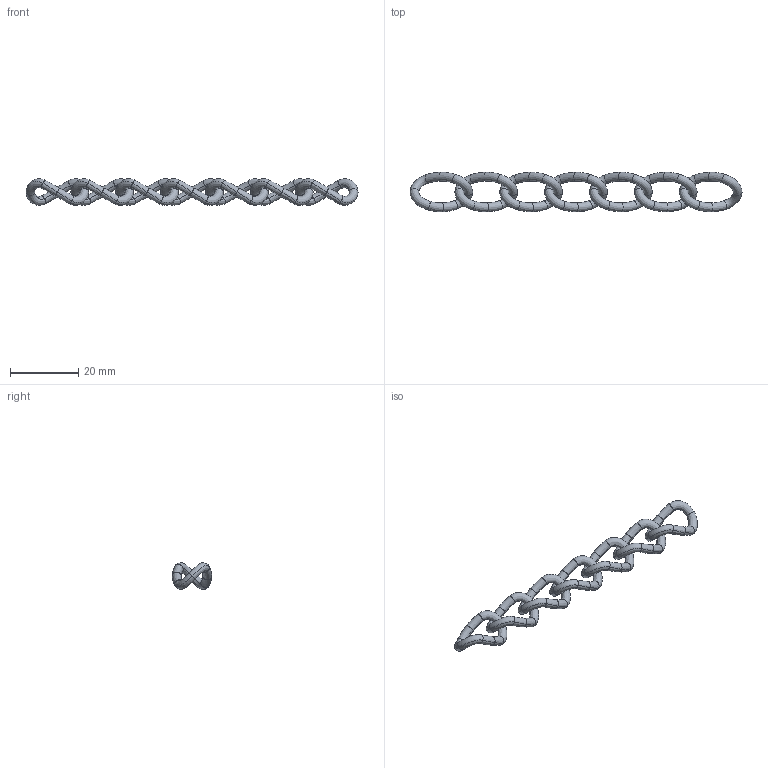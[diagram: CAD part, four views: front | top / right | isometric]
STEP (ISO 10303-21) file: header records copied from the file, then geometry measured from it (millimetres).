
FILE_DESCRIPTION (( 'STEP AP203' ), '1' );
FILE_NAME ('EB-932-4.STEP', '2013-08-09T02:58:11', ( 'SDS' ), ( 'SDS' ), 'SwSTEP 2.0', 'SolidWorks 2002296', '' );
FILE_SCHEMA (( 'CONFIG_CONTROL_DESIGN' ));
Length unit declared in the file: millimetre
Products named in the file (8): EB-932-4; EB-932-41_蹬怮椔; EB-932-42_蹬怮椔; EB-932-43_蹬怮椔; EB-932-44_蹬怮椔; EB-932-45_蹬怮椔; EB-932-46_蹬怮椔; EB-932-47_蹬怮椔
Assembly tree (7 placements, depth 2):
  EB-932-4
    EB-932-45_蹬怮椔
    EB-932-41_蹬怮椔
    EB-932-42_蹬怮椔
    EB-932-44_蹬怮椔
    EB-932-46_蹬怮椔
    EB-932-43_蹬怮椔
    EB-932-47_蹬怮椔
Bounding box: 97.6 x 11.6 x 7.78 mm (x, y, z)
Volume: 1696.2 mm3; surface area: 2609.6 mm2
Topology: 7 solids, 7 shells, 112 faces, 224 edges, 112 vertices
Faces by surface type: bspline 112
Entity records: 42859 total; most frequent: CARTESIAN_POINT 40531, ORIENTED_EDGE 448, EDGE_CURVE 224, B_SPLINE_CURVE_WITH_KNOTS 224, ADVANCED_FACE 112, VERTEX_POINT 112, EDGE_LOOP 112, FACE_OUTER_BOUND 112
